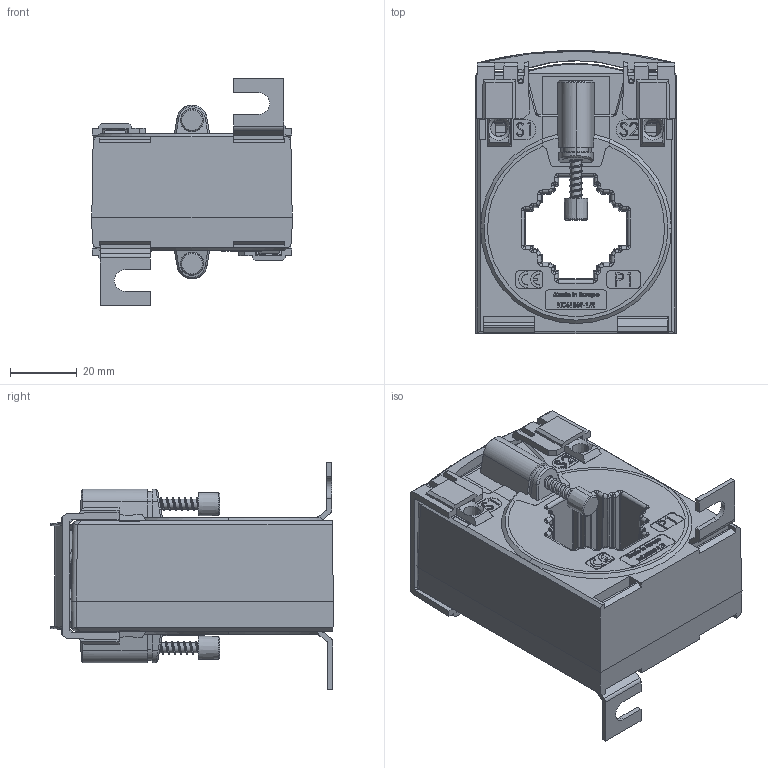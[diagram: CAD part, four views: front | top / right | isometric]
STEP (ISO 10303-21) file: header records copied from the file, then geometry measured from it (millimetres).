
FILE_DESCRIPTION (( 'STEP AP214' ), '1' );
FILE_NAME ('ECTB31.35_kpl_extern_2020-07-07.STEP', '2020-07-07T06:40:01', ( '' ), ( '' ), 'SwSTEP 2.0', 'SolidWorks 2016', '' );
FILE_SCHEMA (( 'AUTOMOTIVE_DESIGN' ));
Length unit declared in the file: millimetre
Products named in the file (11): ECTB31.35_kpl_extern_2020-07-07; Plombierplatte_CTB31-CTB41_50.2.8118_02; Fusswinkel_1,5; Zugfederkontakt_mit_Gehäuse_Lötkontakte_04; Zugfederkontakt_kpl_06; CTB_Strombahn_4.0701_04; CTB-Klemmenkoerper_50.2.8114; Isolierschutzkappe; Plastite_Schraube_25_mit-Gewinde; CTB_31_35-12_Gehäuseoberteil_2_8101_03; CTB_31_35-11_Gehäuseunterteil_2_8100_04
Assembly tree (14 placements, depth 4):
  ECTB31.35_kpl_extern_2020-07-07
    CTB_31_35-11_Gehäuseunterteil_2_8100_04
    CTB_31_35-12_Gehäuseoberteil_2_8101_03
    Plastite_Schraube_25_mit-Gewinde  x2
    Isolierschutzkappe  x2
    Zugfederkontakt_mit_Gehäuse_Lötkontakte_04  x2
      CTB-Klemmenkoerper_50.2.8114
      Zugfederkontakt_kpl_06
        CTB_Strombahn_4.0701_04
    Fusswinkel_1,5  x2
    Plombierplatte_CTB31-CTB41_50.2.8118_02
Bounding box: 60 x 84.7 x 68 mm (x, y, z)
Volume: 157980.1 mm3; surface area: 65677.9 mm2
Topology: 13 solids, 16 shells, 3555 faces, 9754 edges, 6269 vertices
Faces by surface type: plane 2000, bspline 667, cylinder 624, cone 183, torus 73, sphere 8
Entity records: 116919 total; most frequent: CARTESIAN_POINT 49477, ORIENTED_EDGE 15714, DIRECTION 11311, EDGE_CURVE 7857, VERTEX_POINT 5075, VECTOR 4949, LINE 4949, AXIS2_PLACEMENT_3D 3181
